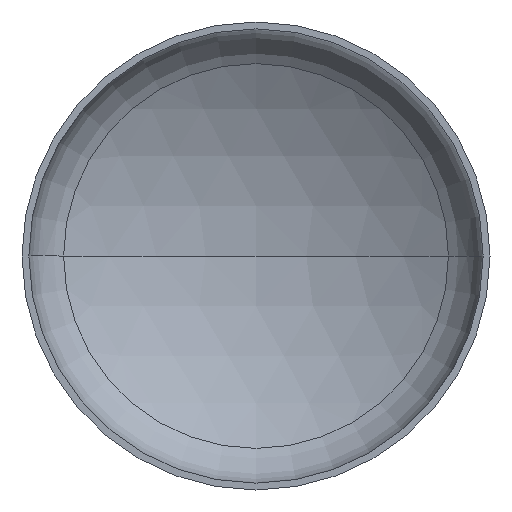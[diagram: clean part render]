
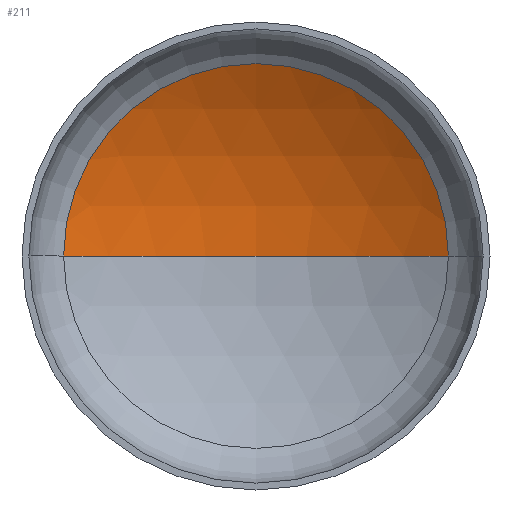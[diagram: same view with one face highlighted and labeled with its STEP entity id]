
A CAD part, front view. The second image highlights one B-rep face of the part: STEP entity #211.
In plain terms, the highlighted spherical face has radius 325 mm.
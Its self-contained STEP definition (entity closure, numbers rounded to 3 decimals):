
#10 = AXIS2_PLACEMENT_3D ( 'NONE', #121, #129, #295 ) ;
#11 = EDGE_LOOP ( 'NONE', ( #77, #25, #13 ) ) ;
#13 = ORIENTED_EDGE ( 'NONE', *, *, #367, .T. ) ;
#14 = AXIS2_PLACEMENT_3D ( 'NONE', #384, #83, #102 ) ;
#25 = ORIENTED_EDGE ( 'NONE', *, *, #371, .T. ) ;
#26 = CARTESIAN_POINT ( 'NONE',  ( -167.072, 73.18, 0. ) ) ;
#35 = VERTEX_POINT ( 'NONE', #255 ) ;
#46 = AXIS2_PLACEMENT_3D ( 'NONE', #107, #115, #273 ) ;
#62 = AXIS2_PLACEMENT_3D ( 'NONE', #202, #403, #218 ) ;
#77 = ORIENTED_EDGE ( 'NONE', *, *, #358, .F. ) ;
#83 = DIRECTION ( 'NONE',  ( 0., -1., 0. ) ) ;
#102 = DIRECTION ( 'NONE',  ( 1., 0., 0. ) ) ;
#107 = CARTESIAN_POINT ( 'NONE',  ( 0., -205.588, 0. ) ) ;
#114 = VERTEX_POINT ( 'NONE', #336 ) ;
#115 = DIRECTION ( 'NONE',  ( 0., 0., 1. ) ) ;
#121 = CARTESIAN_POINT ( 'NONE',  ( 0., -205.588, 0. ) ) ;
#129 = DIRECTION ( 'NONE',  ( 0., 0., -1. ) ) ;
#193 = VERTEX_POINT ( 'NONE', #26 ) ;
#202 = CARTESIAN_POINT ( 'NONE',  ( 0., -205.588, 0. ) ) ;
#206 = FACE_OUTER_BOUND ( 'NONE', #11, .T. ) ;
#211 = ADVANCED_FACE ( 'NONE', ( #206 ), #386, .F. ) ;
#218 = DIRECTION ( 'NONE',  ( -1., 0., 0. ) ) ;
#255 = CARTESIAN_POINT ( 'NONE',  ( 167.072, 73.18, 0. ) ) ;
#273 = DIRECTION ( 'NONE',  ( 1., 0., 0. ) ) ;
#293 = CIRCLE ( 'NONE', #10, 325. ) ;
#295 = DIRECTION ( 'NONE',  ( -1., 0., 0. ) ) ;
#319 = CIRCLE ( 'NONE', #46, 325. ) ;
#336 = CARTESIAN_POINT ( 'NONE',  ( 0., 119.412, 0. ) ) ;
#358 = EDGE_CURVE ( 'NONE', #114, #193, #319, .T. ) ;
#361 = CIRCLE ( 'NONE', #14, 167.072 ) ;
#367 = EDGE_CURVE ( 'NONE', #35, #193, #361, .T. ) ;
#371 = EDGE_CURVE ( 'NONE', #114, #35, #293, .T. ) ;
#384 = CARTESIAN_POINT ( 'NONE',  ( 0., 73.18, 0. ) ) ;
#386 = SPHERICAL_SURFACE ( 'NONE', #62, 325. ) ;
#403 = DIRECTION ( 'NONE',  ( 0., 0., -1. ) ) ;
